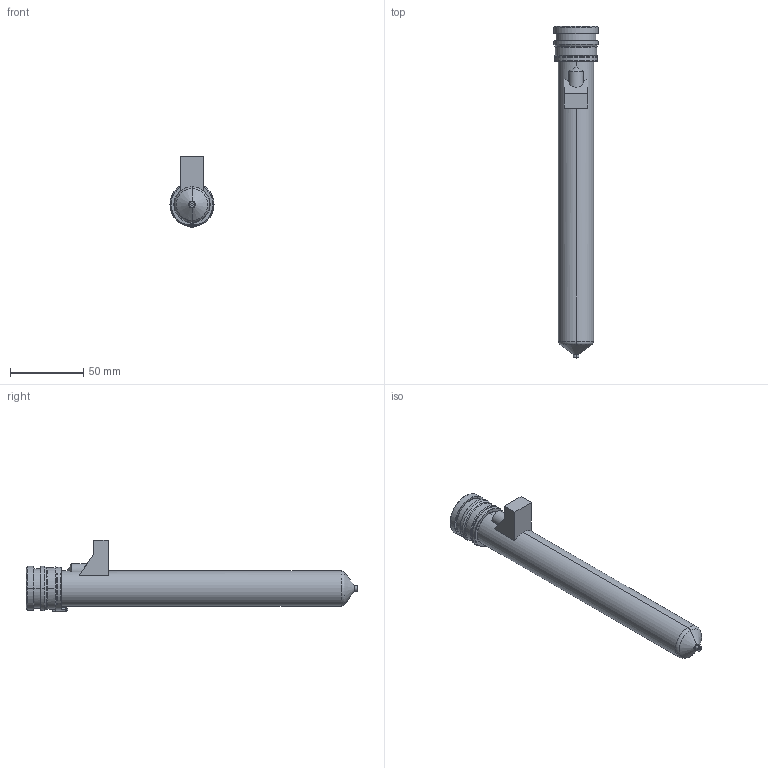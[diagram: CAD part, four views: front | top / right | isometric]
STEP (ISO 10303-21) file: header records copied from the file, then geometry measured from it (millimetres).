
FILE_DESCRIPTION((''),'2;1');
FILE_NAME('MPN-10-29-VP4-206-M','2026-02-05T13:00:00',('UPTIO'),('Thermoplay S.p.A.'),'CREO PARAMETRIC BY PTC INC, 2023494','CREO PARAMETRIC BY PTC INC, 2023494','');
FILE_SCHEMA(('CONFIG_CONTROL_DESIGN','SHAPE_APPEARANCE_LAYERS_GROUPS'));
Length unit declared in the file: millimetre
Products named in the file (1): MPN-10-29-VP4-206-M
Bounding box: 30 x 226.1 x 49 mm (x, y, z)
Volume: 70012.7 mm3; surface area: 72171.9 mm2
Topology: 3 solids, 5 shells, 570 faces, 1470 edges, 905 vertices
Faces by surface type: cylinder 177, plane 156, bspline 92, torus 69, cone 66, sphere 6, extrusion 4
Entity records: 30740 total; most frequent: CARTESIAN_POINT 14402, ORIENTED_EDGE 2926, DIRECTION 2618, EDGE_CURVE 1463, AXIS2_PLACEMENT_3D 1035, VERTEX_POINT 905, EDGE_LOOP 598, FACE_OUTER_BOUND 570
